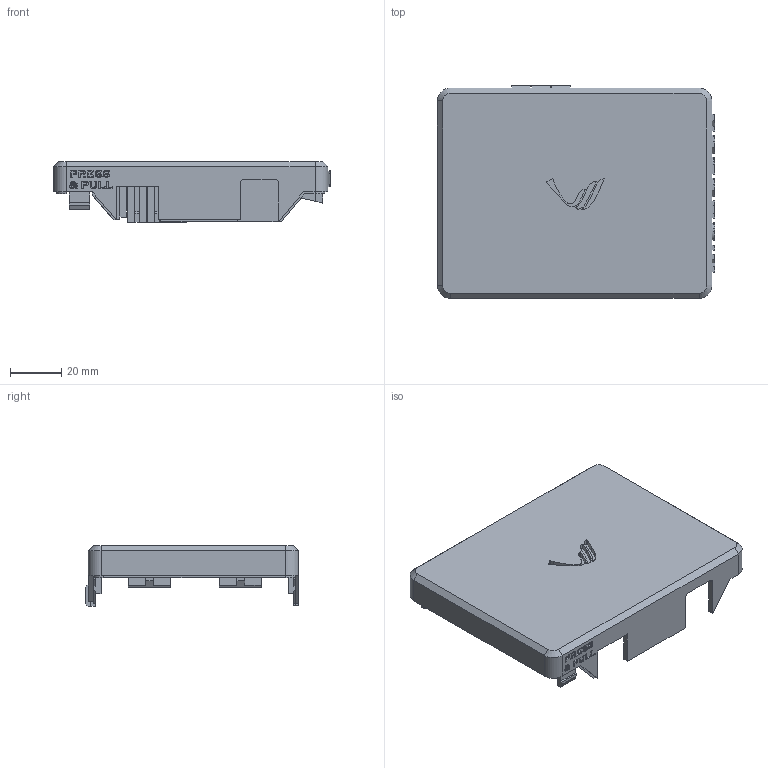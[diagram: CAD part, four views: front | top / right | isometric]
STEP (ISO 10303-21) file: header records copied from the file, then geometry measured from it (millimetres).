
FILE_DESCRIPTION(/* description */ ('','CAx-IF Rec.Pracs.---Representation and Presentation of Product Manufacturing Information (PMI)---4.0---2014-10-13'),/* implementation_level */ '2;1');
FILE_NAME(/* name */ 'Axon0p3_0p2_Case_Top Part_121224.step',/* time_stamp */ '2024-12-12T15:15:35+05:30',/* author */ (''),/* organization */ (''),/* preprocessor_version */ 'ST-DEVELOPER v20',/* originating_system */ 'Autodesk Translation Framework v13.20.0.188',/* authorisation */ '');
FILE_SCHEMA (('AP242_MANAGED_MODEL_BASED_3D_ENGINEERING_MIM_LF { 1 0 10303 442 1 1 4 }'));
Length unit declared in the file: millimetre
Products named in the file (1): Axon Enclosure
Bounding box: 107.71 x 82.76 x 23.66 mm (x, y, z)
Volume: 37981.7 mm3; surface area: 29503.4 mm2
Topology: 1 solids, 1 shells, 1346 faces, 3842 edges, 2547 vertices
Faces by surface type: bspline 723, plane 565, cylinder 54, cone 4
Entity records: 45126 total; most frequent: CARTESIAN_POINT 15280, ORIENTED_EDGE 7684, EDGE_CURVE 3842, DIRECTION 3746, VERTEX_POINT 2547, LINE 2274, VECTOR 2274, EDGE_LOOP 1395
